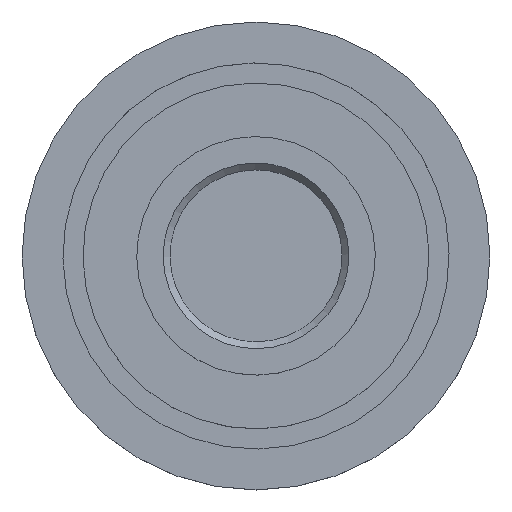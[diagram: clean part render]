
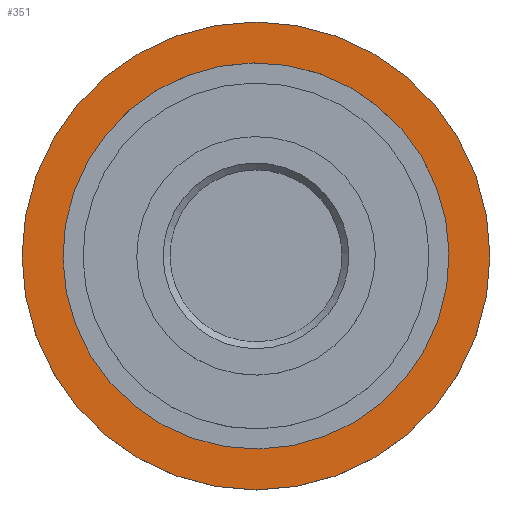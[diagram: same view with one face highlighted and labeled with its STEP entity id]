
A CAD part, top view. The second image highlights one B-rep face of the part: STEP entity #351.
In plain terms, the highlighted planar face has unit normal (0, 0, 1).
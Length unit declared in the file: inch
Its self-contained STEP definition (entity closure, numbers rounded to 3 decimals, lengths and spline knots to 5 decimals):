
#79=CARTESIAN_POINT('',(1.31535,0.02,0.));
#80=VERTEX_POINT('',#79);
#81=CARTESIAN_POINT('',(0.,0.,0.));
#82=DIRECTION('',(0.,0.,1.0));
#83=DIRECTION('',(1.,0.015,0.));
#84=AXIS2_PLACEMENT_3D('',#81,#82,#83);
#85=CIRCLE('',#84,1.3155);
#86=EDGE_CURVE('',#80,#80,#85,.T.);
#328=CARTESIAN_POINT('',(-1.594,0.0,0.));
#329=VERTEX_POINT('',#328);
#330=CARTESIAN_POINT('',(0.0,0.0,0.));
#331=DIRECTION('',(0.0,0.0,-1.0));
#332=DIRECTION('',(-1.0,0.0,0.0));
#333=AXIS2_PLACEMENT_3D('',#330,#331,#332);
#334=CIRCLE('',#333,1.594);
#335=EDGE_CURVE('',#329,#329,#334,.T.);
#340=CARTESIAN_POINT('',(-1.73939,1.71064,0.));
#341=DIRECTION('',(0.0,0.0,-1.0));
#342=DIRECTION('',(1.,0.015,0.0));
#343=AXIS2_PLACEMENT_3D('',#340,#341,#342);
#344=PLANE('',#343);
#345=ORIENTED_EDGE('',*,*,#335,.F.);
#346=EDGE_LOOP('',(#345));
#347=FACE_OUTER_BOUND('',#346,.T.);
#348=ORIENTED_EDGE('',*,*,#86,.F.);
#349=EDGE_LOOP('',(#348));
#350=FACE_BOUND('',#349,.T.);
#351=ADVANCED_FACE('',(#347,#350),#344,.F.);
